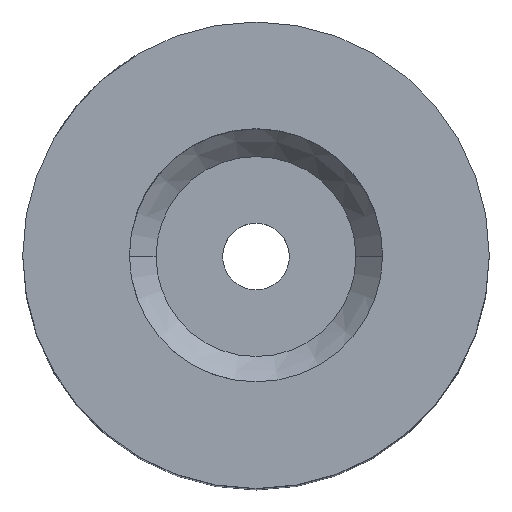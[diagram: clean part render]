
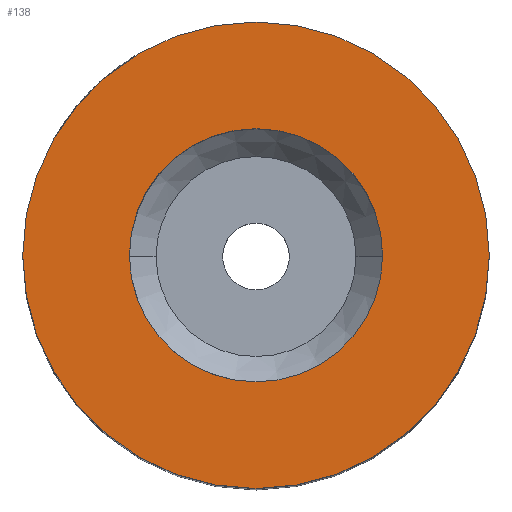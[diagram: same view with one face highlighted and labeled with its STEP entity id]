
A CAD part, top view. The second image highlights one B-rep face of the part: STEP entity #138.
In plain terms, the highlighted planar face has unit normal (0, 0, 1).
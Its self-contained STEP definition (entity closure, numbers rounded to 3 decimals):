
#110=PLANE('',#445);
#117=FACE_BOUND('',#187,.T.);
#118=FACE_BOUND('',#188,.T.);
#138=ADVANCED_FACE('',(#117,#118),#110,.T.);
#187=EDGE_LOOP('',(#265,#266));
#188=EDGE_LOOP('',(#267,#268));
#217=CIRCLE('',#441,14.);
#218=CIRCLE('',#442,14.);
#219=CIRCLE('',#443,7.6);
#220=CIRCLE('',#444,7.6);
#265=ORIENTED_EDGE('',*,*,#361,.F.);
#266=ORIENTED_EDGE('',*,*,#362,.F.);
#267=ORIENTED_EDGE('',*,*,#363,.T.);
#268=ORIENTED_EDGE('',*,*,#364,.T.);
#325=VERTEX_POINT('',#605);
#326=VERTEX_POINT('',#606);
#327=VERTEX_POINT('',#609);
#328=VERTEX_POINT('',#610);
#361=EDGE_CURVE('',#325,#326,#217,.T.);
#362=EDGE_CURVE('',#326,#325,#218,.T.);
#363=EDGE_CURVE('',#327,#328,#219,.T.);
#364=EDGE_CURVE('',#328,#327,#220,.T.);
#441=AXIS2_PLACEMENT_3D('',#604,#518,#519);
#442=AXIS2_PLACEMENT_3D('',#607,#520,#521);
#443=AXIS2_PLACEMENT_3D('',#608,#522,#523);
#444=AXIS2_PLACEMENT_3D('',#611,#524,#525);
#445=AXIS2_PLACEMENT_3D('',#612,#526,#527);
#518=DIRECTION('',(0.,0.,-1.));
#519=DIRECTION('',(0.,1.,0.));
#520=DIRECTION('',(0.,0.,-1.));
#521=DIRECTION('',(0.,-1.,0.));
#522=DIRECTION('',(0.,0.,-1.));
#523=DIRECTION('',(0.,-1.,0.));
#524=DIRECTION('',(0.,0.,-1.));
#525=DIRECTION('',(0.,1.,0.));
#526=DIRECTION('',(0.,0.,1.));
#527=DIRECTION('',(0.,-1.,0.));
#604=CARTESIAN_POINT('',(0.,0.,50.));
#605=CARTESIAN_POINT('',(14.,0.,50.));
#606=CARTESIAN_POINT('',(-14.,0.,50.));
#607=CARTESIAN_POINT('',(0.,0.,50.));
#608=CARTESIAN_POINT('',(0.,0.,50.));
#609=CARTESIAN_POINT('',(-7.6,0.,50.));
#610=CARTESIAN_POINT('',(7.6,0.,50.));
#611=CARTESIAN_POINT('',(0.,0.,50.));
#612=CARTESIAN_POINT('',(0.,0.,50.));
